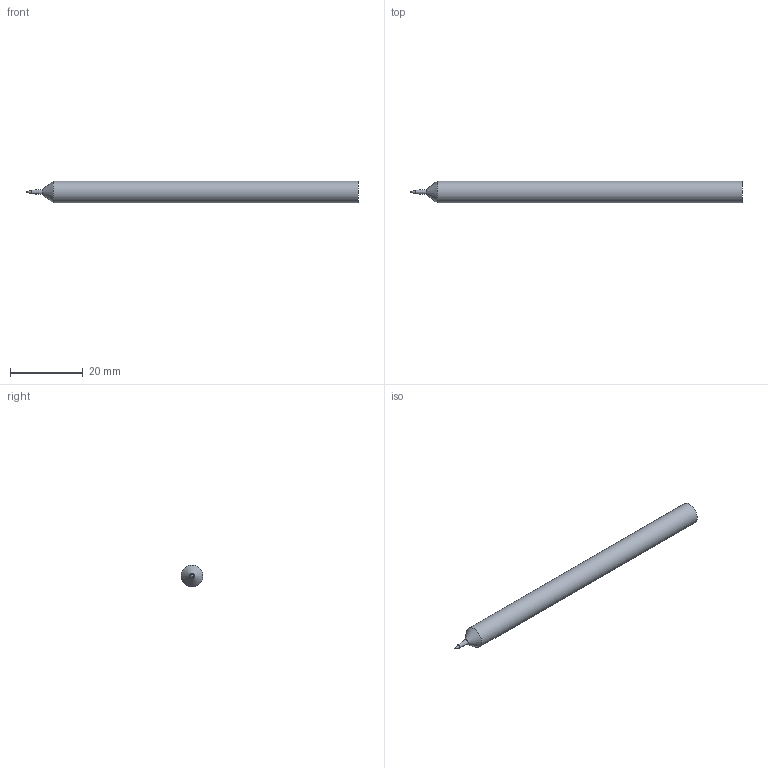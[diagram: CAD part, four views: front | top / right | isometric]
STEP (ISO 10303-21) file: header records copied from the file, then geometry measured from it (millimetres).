
FILE_DESCRIPTION(('Open CASCADE Model'),'2;1');
FILE_NAME('Open CASCADE Shape Model','2026-11-25T12:52:15',('Author'),( 'Open CASCADE'),'Open CASCADE STEP processor 8.0','Open CASCADE 8.0' ,'Unknown');
FILE_SCHEMA(('AP242_MANAGED_MODEL_BASED_3D_ENGINEERING_MIM_LF {1 0 10303 442 1 1 4 }' ));
Length unit declared in the file: millimetre
Products named in the file (1): Refill
Bounding box: 91.5 x 6 x 6 mm (x, y, z)
Volume: 2415.3 mm3; surface area: 1669.4 mm2
Topology: 1 solids, 1 shells, 5 faces, 9 edges, 5 vertices
Faces by surface type: cone 3, cylinder 1, plane 1
Full cylindrical faces by diameter (mm): 6 x1
Entity records: 241 total; most frequent: DIRECTION 40, CARTESIAN_POINT 35, LINE 19, VECTOR 19, ORIENTED_EDGE 16, PCURVE 16, DEFINITIONAL_REPRESENTATION 16, AXIS2_PLACEMENT_3D 10
